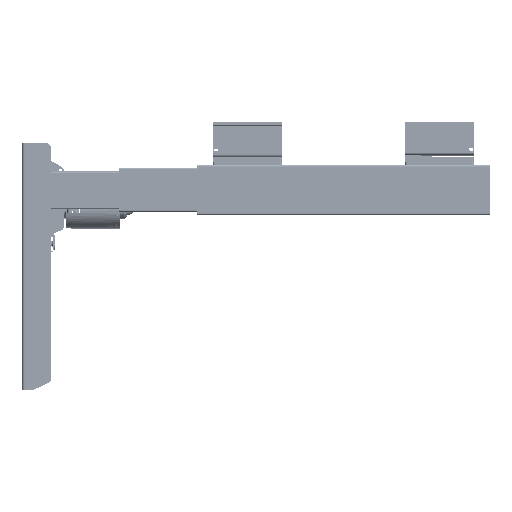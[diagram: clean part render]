
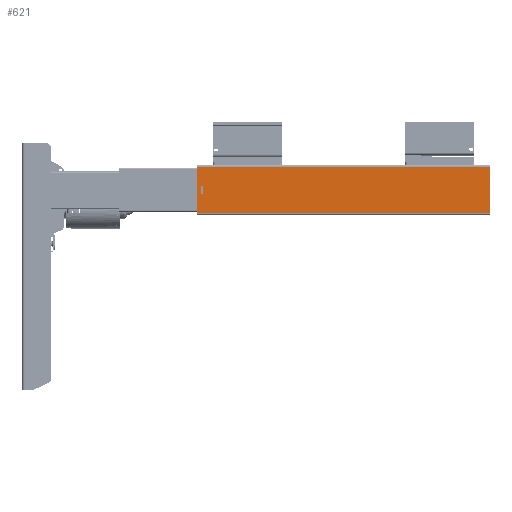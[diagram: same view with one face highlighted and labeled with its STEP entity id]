
A CAD part, left-side view. The second image highlights one B-rep face of the part: STEP entity #621.
In plain terms, the highlighted planar face has unit normal (-1, 0, 0).
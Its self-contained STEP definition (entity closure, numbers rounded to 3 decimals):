
#621 = ADVANCED_FACE ( 'NONE', ( #160814, #254074 ), #11439, .F. ) ;
#790 = DIRECTION ( 'NONE',  ( 0., 0., -1. ) ) ;
#4950 = ORIENTED_EDGE ( 'NONE', *, *, #123940, .T. ) ;
#5532 = CARTESIAN_POINT ( 'NONE',  ( -30., 6., 6. ) ) ;
#7826 = CARTESIAN_POINT ( 'NONE',  ( -30., 37., 465. ) ) ;
#10940 = VECTOR ( 'NONE', #12022, 1000. ) ;
#11439 = PLANE ( 'NONE',  #258926 ) ;
#12022 = DIRECTION ( 'NONE',  ( 0., 0., -1. ) ) ;
#13547 = EDGE_CURVE ( 'NONE', #233610, #170498, #262134, .T. ) ;
#14700 = EDGE_LOOP ( 'NONE', ( #4950, #231397, #241213, #50876 ) ) ;
#35625 = VERTEX_POINT ( 'NONE', #157849 ) ;
#40340 = CARTESIAN_POINT ( 'NONE',  ( -30., -6., 10. ) ) ;
#45688 = VECTOR ( 'NONE', #166650, 1000. ) ;
#50876 = ORIENTED_EDGE ( 'NONE', *, *, #13547, .T. ) ;
#52396 = ORIENTED_EDGE ( 'NONE', *, *, #74072, .T. ) ;
#57203 = VECTOR ( 'NONE', #309095, 1000. ) ;
#74072 = EDGE_CURVE ( 'NONE', #202157, #280334, #305468, .T. ) ;
#81526 = VECTOR ( 'NONE', #790, 1000. ) ;
#88240 = VECTOR ( 'NONE', #302882, 1000. ) ;
#103244 = EDGE_CURVE ( 'NONE', #202157, #241420, #227896, .T. ) ;
#108608 = ORIENTED_EDGE ( 'NONE', *, *, #174887, .T. ) ;
#113093 = LINE ( 'NONE', #211086, #57203 ) ;
#114017 = CARTESIAN_POINT ( 'NONE',  ( -30., -37., 465. ) ) ;
#120622 = EDGE_CURVE ( 'NONE', #241420, #35625, #201683, .T. ) ;
#122282 = CARTESIAN_POINT ( 'NONE',  ( -30., 37., 0. ) ) ;
#123100 = CARTESIAN_POINT ( 'NONE',  ( -30., 6., 10. ) ) ;
#123940 = EDGE_CURVE ( 'NONE', #170498, #178194, #113093, .T. ) ;
#127625 = CARTESIAN_POINT ( 'NONE',  ( -30., -6., 10. ) ) ;
#131991 = CARTESIAN_POINT ( 'NONE',  ( -30., 37., 465. ) ) ;
#135275 = DIRECTION ( 'NONE',  ( 0., 1., 0. ) ) ;
#138286 = VECTOR ( 'NONE', #226599, 1000. ) ;
#141617 = VECTOR ( 'NONE', #135275, 1000. ) ;
#145399 = CARTESIAN_POINT ( 'NONE',  ( -30., -6., 6. ) ) ;
#148450 = CARTESIAN_POINT ( 'NONE',  ( -30., 37., 0. ) ) ;
#152831 = ORIENTED_EDGE ( 'NONE', *, *, #103244, .F. ) ;
#157849 = CARTESIAN_POINT ( 'NONE',  ( -30., -37., 0. ) ) ;
#160814 = FACE_BOUND ( 'NONE', #14700, .T. ) ;
#166650 = DIRECTION ( 'NONE',  ( 0., -1., 0. ) ) ;
#170498 = VERTEX_POINT ( 'NONE', #5532 ) ;
#174887 = EDGE_CURVE ( 'NONE', #280334, #35625, #273245, .T. ) ;
#177624 = CARTESIAN_POINT ( 'NONE',  ( -30., -37., 465. ) ) ;
#178194 = VERTEX_POINT ( 'NONE', #123100 ) ;
#182318 = ORIENTED_EDGE ( 'NONE', *, *, #120622, .F. ) ;
#195661 = VECTOR ( 'NONE', #260378, 1000. ) ;
#198121 = CARTESIAN_POINT ( 'NONE',  ( -30., 37., 465. ) ) ;
#201683 = LINE ( 'NONE', #177624, #10940 ) ;
#202157 = VERTEX_POINT ( 'NONE', #198121 ) ;
#204857 = LINE ( 'NONE', #283521, #88240 ) ;
#209162 = EDGE_CURVE ( 'NONE', #285282, #233610, #272253, .T. ) ;
#211086 = CARTESIAN_POINT ( 'NONE',  ( -30., 6., 10. ) ) ;
#211662 = EDGE_LOOP ( 'NONE', ( #108608, #182318, #152831, #52396 ) ) ;
#226599 = DIRECTION ( 'NONE',  ( 0., -1., 0. ) ) ;
#227896 = LINE ( 'NONE', #7826, #45688 ) ;
#231397 = ORIENTED_EDGE ( 'NONE', *, *, #294069, .T. ) ;
#233610 = VERTEX_POINT ( 'NONE', #145399 ) ;
#241213 = ORIENTED_EDGE ( 'NONE', *, *, #209162, .T. ) ;
#241420 = VERTEX_POINT ( 'NONE', #114017 ) ;
#254074 = FACE_OUTER_BOUND ( 'NONE', #211662, .T. ) ;
#258790 = DIRECTION ( 'NONE',  ( 1., 0., 0. ) ) ;
#258926 = AXIS2_PLACEMENT_3D ( 'NONE', #131991, #258790, #279805 ) ;
#258959 = CARTESIAN_POINT ( 'NONE',  ( -30., 6., 6. ) ) ;
#260378 = DIRECTION ( 'NONE',  ( 0., 0., -1. ) ) ;
#262134 = LINE ( 'NONE', #258959, #141617 ) ;
#272253 = LINE ( 'NONE', #127625, #81526 ) ;
#273245 = LINE ( 'NONE', #122282, #138286 ) ;
#279805 = DIRECTION ( 'NONE',  ( 0., 1., 0. ) ) ;
#280334 = VERTEX_POINT ( 'NONE', #148450 ) ;
#281384 = CARTESIAN_POINT ( 'NONE',  ( -30., 37., 465. ) ) ;
#283521 = CARTESIAN_POINT ( 'NONE',  ( -30., 6., 10. ) ) ;
#285282 = VERTEX_POINT ( 'NONE', #40340 ) ;
#294069 = EDGE_CURVE ( 'NONE', #178194, #285282, #204857, .T. ) ;
#302882 = DIRECTION ( 'NONE',  ( 0., -1., 0. ) ) ;
#305468 = LINE ( 'NONE', #281384, #195661 ) ;
#309095 = DIRECTION ( 'NONE',  ( 0., 0., 1. ) ) ;
